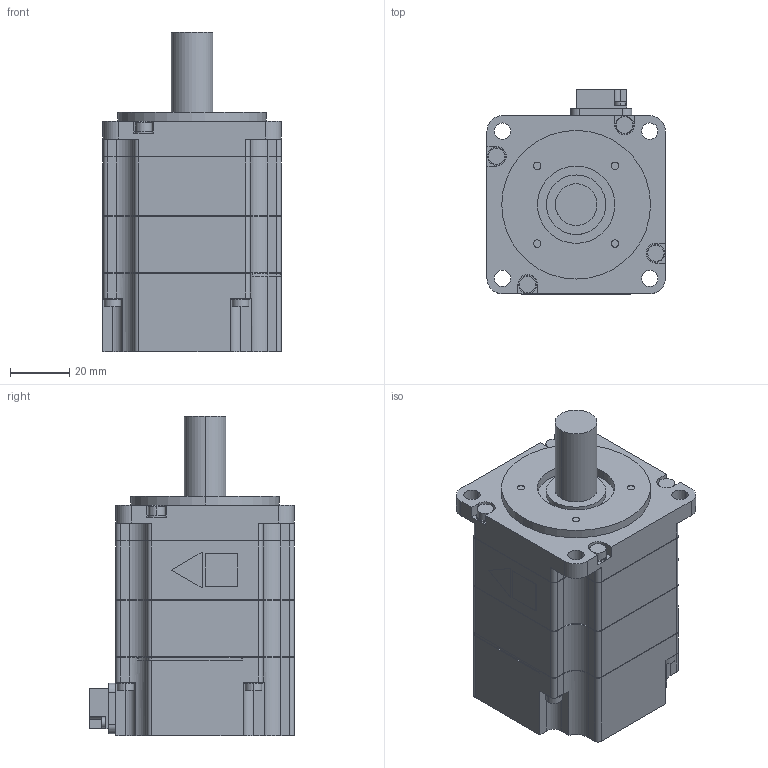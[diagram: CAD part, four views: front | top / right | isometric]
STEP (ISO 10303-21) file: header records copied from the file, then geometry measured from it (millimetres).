
FILE_DESCRIPTION (( 'STEP AP203' ), '1' );
FILE_NAME ('sgm7j_02a6a21.STEP', '2016-11-12T04:56:10', ( '匠エンジニアリング山之内' ), ( 'TAKUMI-Engniaring' ), 'SwSTEP 2.0', 'SolidWorks 2006303', '' );
FILE_SCHEMA (( 'CONFIG_CONTROL_DESIGN' ));
Length unit declared in the file: millimetre
Products named in the file (1): sgm7j_02a6a21
Bounding box: 60.1 x 68.8 x 107.6 mm (x, y, z)
Volume: 255495.5 mm3; surface area: 30206.3 mm2
Topology: 1 solids, 1 shells, 415 faces, 1090 edges, 724 vertices
Faces by surface type: plane 230, cylinder 185
Entity records: 12983 total; most frequent: DIRECTION 2300, CARTESIAN_POINT 2244, ORIENTED_EDGE 2180, EDGE_CURVE 1090, AXIS2_PLACEMENT_3D 796, VERTEX_POINT 724, VECTOR 708, LINE 708
